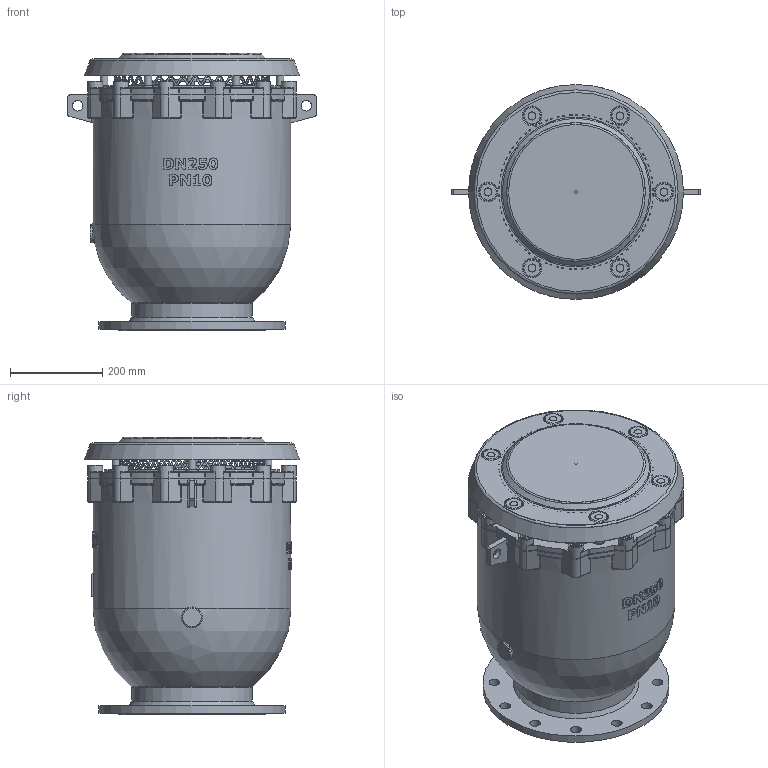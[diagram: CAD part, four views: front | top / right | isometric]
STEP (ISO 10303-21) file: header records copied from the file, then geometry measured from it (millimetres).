
FILE_DESCRIPTION(('STEP AP242'), '1');
FILE_NAME('Âîçäóøíûé êëàïàí DUOJET KX', '', ('UNSPECIFIED'), ('UNSPECIFIED'), 'C3D Converter', 'C3D Toolkit', '');
FILE_SCHEMA(('AP242_MANAGED_MODEL_BASED_3D_ENGINEERING_MIM_LF { 1 0 10303 442 1 1 4 }'));
Length unit declared in the file: millimetre
Assembly tree (45 placements, depth 2):
  (unnamed)
    (unnamed)
    (unnamed)
    (unnamed)
    (unnamed)
    (unnamed)
    (unnamed)
    (unnamed)  x6
    (unnamed)  x6
    (unnamed)
    (unnamed)
    (unnamed)
    (unnamed)  x5
    (unnamed)  x7
    (unnamed)  x6
    (unnamed)  x6
Bounding box: 539 x 467 x 602 mm (x, y, z)
Volume: 11372527.9 mm3; surface area: 4796982.1 mm2
Topology: 59 solids, 60 shells, 2202 faces, 5698 edges, 3672 vertices
Faces by surface type: plane 773, bspline 565, cylinder 528, extrusion 134, torus 107, cone 82, sphere 13
Full cylindrical faces by diameter (mm): 6 x3, 9 x2, 10 x18, 10.5 x6, 11 x12, 12 x6, 16 x54, 22.883 x2, 23 x12, 24 x12, 25.6 x12, 30 x6, 32 x12, 40 x1, 41.117 x1, 62.5 x2, 68.5 x1, 250 x2, 262 x1, 334 x2, 336 x1, 343 x2, 349 x1, 366 x1, 370 x2, 382 x2, 405 x1, 416 x2, 418 x3, 430 x1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
Entity records: 158651 total; most frequent: CARTESIAN_POINT 112834, ORIENTED_EDGE 9482, DIRECTION 6617, EDGE_CURVE 4741, VERTEX_POINT 3184, AXIS2_PLACEMENT_3D 2550, EDGE_LOOP 2356, B_SPLINE_CURVE_WITH_KNOTS 2118
